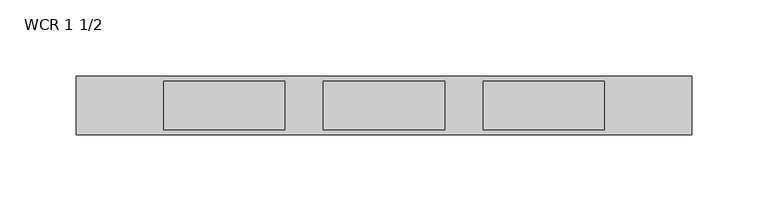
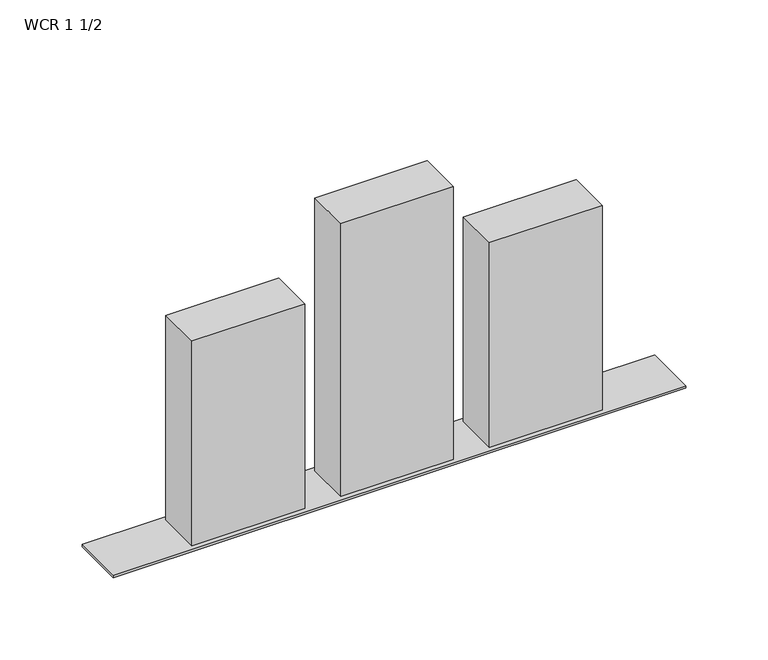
"""IFC4 building model written with IfcOpenShell, lengths in millimetres: proxy geometry, End_Closure-Walkercell-Wiremold-Duct_Stubs : WCR 1 1/2."""

from ifc_helpers import new_model, si_unit, frame, origin, origin_with_axes, place, context, project, spatial, polyline, outline, extrude, source, transform, mapped, element, save


def wcr_1_1_2_a4006971(model_context):
    return source(origin(), model_context, "Body", "SweptSolid", [
        extrude(outline(polyline([(-65.0875, -15.875), (-144.4625, -15.875), (-144.4625, 15.875), (-65.0875, 15.875), (-65.0875, -15.875)])), frame((0.0, 0.0, 1.778), z_axis=(0.0, 0.0, 1.0), x_axis=(1.0, 0.0, 0.0)), (0.0, 0.0, 1.0), 152.4),
        extrude(outline(polyline([(39.6875, -15.875), (-39.6875, -15.875), (-39.6875, 15.875), (39.6875, 15.875), (39.6875, -15.875)])), frame((0.0, 0.0, 1.778), z_axis=(0.0, 0.0, 1.0), x_axis=(1.0, 0.0, 0.0)), (0.0, 0.0, 1.0), 203.2),
        extrude(outline(polyline([(144.4625, -15.875), (65.0875, -15.875), (65.0875, 15.875), (144.4625, 15.875), (144.4625, -15.875)])), frame((0.0, 0.0, 1.778), z_axis=(0.0, 0.0, 1.0), x_axis=(1.0, 0.0, 0.0)), (0.0, 0.0, 1.0), 152.4),
        extrude(outline(polyline([(201.6125, 19.05), (201.6125, -19.05), (-201.6125, -19.05), (-201.6125, 19.05), (201.6125, 19.05)])), origin_with_axes(), (0.0, 0.0, 1.0), 1.778),
    ])


if __name__ == "__main__":
    model = new_model("IFC4")
    model_context = context("Model", 3, world=origin())
    ifc_project = project(units=[si_unit("LENGTHUNIT", "METRE", prefix="MILLI")], contexts=[model_context])
    site = spatial("IfcSite", under=ifc_project)
    building = spatial("IfcBuilding", under=site)
    placement = place(None, origin())
    wcr_1_1_2_shape = wcr_1_1_2_a4006971(model_context)
    element("IfcBuildingElementProxy", 1, Name="End_Closure-Walkercell-Wiremold-Duct_Stubs : WCR 1 1/2", ObjectType="End_Closure-Walkercell-Wiremold-Duct_Stubs : WCR 1 1/2", at=placement, inside=building, context=model_context, shape_type="MappedRepresentation", body=[
        mapped(wcr_1_1_2_shape, transform((0.0, 0.0, 0.0), x_axis=(1.0, 0.0, 0.0), y_axis=(0.0, 1.0, 0.0), z_axis=(0.0, 0.0, 1.0))),
    ])
    save(model, "model.ifc")
